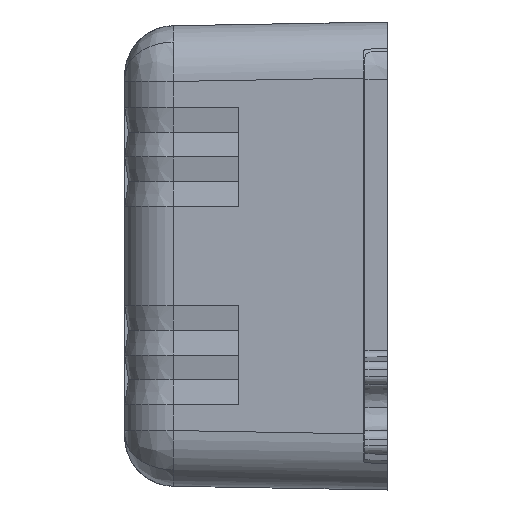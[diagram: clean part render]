
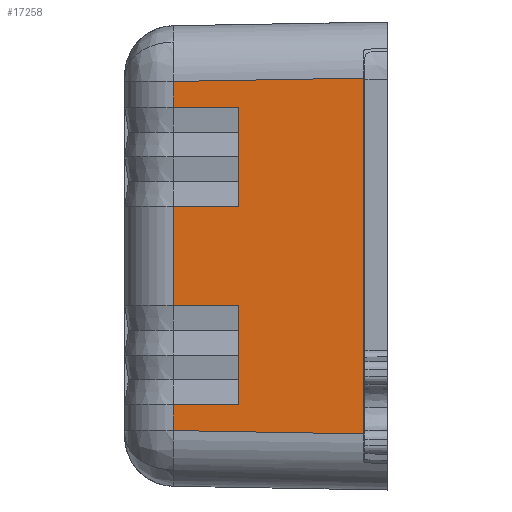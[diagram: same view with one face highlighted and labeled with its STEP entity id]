
A CAD part, left-side view. The second image highlights one B-rep face of the part: STEP entity #17258.
In plain terms, the highlighted planar face has unit normal (-1, 0.018, 0).
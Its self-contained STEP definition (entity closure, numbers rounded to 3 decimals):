
#8 = LINE ( 'NONE', #13129, #19230 ) ;
#126 = ORIENTED_EDGE ( 'NONE', *, *, #17130, .T. ) ;
#176 = CARTESIAN_POINT ( 'NONE',  ( -47.601, -1.567, -14.368 ) ) ;
#269 = VECTOR ( 'NONE', #11273, 1000. ) ;
#352 = FACE_OUTER_BOUND ( 'NONE', #4096, .T. ) ;
#602 = EDGE_CURVE ( 'NONE', #4332, #14952, #9105, .T. ) ;
#658 = CARTESIAN_POINT ( 'NONE',  ( -47.601, -1.567, 14.368 ) ) ;
#681 = PLANE ( 'NONE',  #9734 ) ;
#783 = VECTOR ( 'NONE', #10850, 1000. ) ;
#832 = VERTEX_POINT ( 'NONE', #658 ) ;
#1109 = DIRECTION ( 'NONE',  ( 0., 0., -1. ) ) ;
#1784 = CARTESIAN_POINT ( 'NONE',  ( -47.333, 13.803, -14.031 ) ) ;
#1952 = ORIENTED_EDGE ( 'NONE', *, *, #12623, .F. ) ;
#2043 = LINE ( 'NONE', #4685, #17698 ) ;
#2158 = VECTOR ( 'NONE', #10868, 1000. ) ;
#2548 = ORIENTED_EDGE ( 'NONE', *, *, #10962, .T. ) ;
#2654 = VERTEX_POINT ( 'NONE', #8523 ) ;
#2742 = ORIENTED_EDGE ( 'NONE', *, *, #13839, .T. ) ;
#3668 = VECTOR ( 'NONE', #15021, 1000. ) ;
#3721 = EDGE_CURVE ( 'NONE', #832, #14952, #19325, .T. ) ;
#3815 = LINE ( 'NONE', #10865, #11877 ) ;
#4096 = EDGE_LOOP ( 'NONE', ( #7055, #11919, #126, #17797, #7253, #4557, #14496, #14992, #1952, #2548, #11182, #2742, #16866, #16859 ) ) ;
#4332 = VERTEX_POINT ( 'NONE', #8757 ) ;
#4338 = VECTOR ( 'NONE', #6388, 1000. ) ;
#4414 = LINE ( 'NONE', #9039, #12505 ) ;
#4557 = ORIENTED_EDGE ( 'NONE', *, *, #17070, .T. ) ;
#4685 = CARTESIAN_POINT ( 'NONE',  ( -47.333, 13.803, -14.031 ) ) ;
#5082 = CARTESIAN_POINT ( 'NONE',  ( -47.425, 8.533, 8. ) ) ;
#5150 = VECTOR ( 'NONE', #18228, 1000. ) ;
#5306 = CARTESIAN_POINT ( 'NONE',  ( -47.333, 13.803, -12. ) ) ;
#5856 = DIRECTION ( 'NONE',  ( 0., 0., -1. ) ) ;
#5886 = DIRECTION ( 'NONE',  ( -0.017, -1., -0.017 ) ) ;
#6388 = DIRECTION ( 'NONE',  ( 0., 0., -1. ) ) ;
#6687 = CARTESIAN_POINT ( 'NONE',  ( -47.333, 13.803, 14.099 ) ) ;
#6787 = CARTESIAN_POINT ( 'NONE',  ( -47.425, 8.533, 4. ) ) ;
#6792 = CARTESIAN_POINT ( 'NONE',  ( -47.635, -3.467, -18.9 ) ) ;
#7055 = ORIENTED_EDGE ( 'NONE', *, *, #11671, .T. ) ;
#7253 = ORIENTED_EDGE ( 'NONE', *, *, #3721, .F. ) ;
#7311 = VERTEX_POINT ( 'NONE', #5082 ) ;
#7723 = VECTOR ( 'NONE', #5856, 1000. ) ;
#8055 = CARTESIAN_POINT ( 'NONE',  ( -47.425, 8.533, -12. ) ) ;
#8305 = DIRECTION ( 'NONE',  ( -0.017, -1., 0. ) ) ;
#8323 = EDGE_CURVE ( 'NONE', #10787, #19073, #17253, .T. ) ;
#8377 = LINE ( 'NONE', #9336, #4338 ) ;
#8523 = CARTESIAN_POINT ( 'NONE',  ( -47.425, 8.533, -8. ) ) ;
#8623 = VECTOR ( 'NONE', #5886, 1000. ) ;
#8757 = CARTESIAN_POINT ( 'NONE',  ( -47.333, 13.803, -14.099 ) ) ;
#8817 = LINE ( 'NONE', #18853, #269 ) ;
#8935 = LINE ( 'NONE', #10211, #17036 ) ;
#9039 = CARTESIAN_POINT ( 'NONE',  ( -47.624, -2.886, 14.391 ) ) ;
#9105 = LINE ( 'NONE', #19451, #8623 ) ;
#9139 = CARTESIAN_POINT ( 'NONE',  ( -47.333, 13.803, -4. ) ) ;
#9336 = CARTESIAN_POINT ( 'NONE',  ( -47.425, 8.533, -12. ) ) ;
#9576 = EDGE_CURVE ( 'NONE', #2654, #19073, #3815, .T. ) ;
#9734 = AXIS2_PLACEMENT_3D ( 'NONE', #6792, #17407, #8305 ) ;
#9745 = CARTESIAN_POINT ( 'NONE',  ( -47.425, 8.533, 12. ) ) ;
#10211 = CARTESIAN_POINT ( 'NONE',  ( -47.425, 8.533, 4. ) ) ;
#10622 = VERTEX_POINT ( 'NONE', #6787 ) ;
#10787 = VERTEX_POINT ( 'NONE', #17843 ) ;
#10850 = DIRECTION ( 'NONE',  ( -0.017, -1., 0. ) ) ;
#10865 = CARTESIAN_POINT ( 'NONE',  ( -47.425, 8.533, -4. ) ) ;
#10868 = DIRECTION ( 'NONE',  ( 0., 0., -1. ) ) ;
#10962 = EDGE_CURVE ( 'NONE', #7311, #10622, #8935, .T. ) ;
#10966 = VERTEX_POINT ( 'NONE', #17777 ) ;
#11133 = CARTESIAN_POINT ( 'NONE',  ( -47.333, 13.803, 12. ) ) ;
#11182 = ORIENTED_EDGE ( 'NONE', *, *, #13680, .F. ) ;
#11273 = DIRECTION ( 'NONE',  ( -0.017, -1., 0. ) ) ;
#11657 = EDGE_CURVE ( 'NONE', #17753, #15891, #13375, .T. ) ;
#11671 = EDGE_CURVE ( 'NONE', #2654, #12363, #8377, .T. ) ;
#11778 = DIRECTION ( 'NONE',  ( -0.017, -1., 0. ) ) ;
#11877 = VECTOR ( 'NONE', #13886, 1000. ) ;
#11919 = ORIENTED_EDGE ( 'NONE', *, *, #13487, .F. ) ;
#12018 = CARTESIAN_POINT ( 'NONE',  ( -47.425, 8.533, 12. ) ) ;
#12103 = DIRECTION ( 'NONE',  ( 0.017, 1., -0.017 ) ) ;
#12363 = VERTEX_POINT ( 'NONE', #8055 ) ;
#12505 = VECTOR ( 'NONE', #12103, 1000. ) ;
#12623 = EDGE_CURVE ( 'NONE', #7311, #15891, #15830, .T. ) ;
#13129 = CARTESIAN_POINT ( 'NONE',  ( -47.333, 13.803, -14.031 ) ) ;
#13375 = LINE ( 'NONE', #18426, #783 ) ;
#13487 = EDGE_CURVE ( 'NONE', #19364, #12363, #8817, .T. ) ;
#13680 = EDGE_CURVE ( 'NONE', #10966, #10622, #17379, .T. ) ;
#13839 = EDGE_CURVE ( 'NONE', #10966, #10787, #17814, .T. ) ;
#13886 = DIRECTION ( 'NONE',  ( 0., 0., 1. ) ) ;
#14496 = ORIENTED_EDGE ( 'NONE', *, *, #15157, .T. ) ;
#14610 = DIRECTION ( 'NONE',  ( 0., 0., -1. ) ) ;
#14952 = VERTEX_POINT ( 'NONE', #176 ) ;
#14956 = CARTESIAN_POINT ( 'NONE',  ( -47.601, -1.567, -18.9 ) ) ;
#14992 = ORIENTED_EDGE ( 'NONE', *, *, #11657, .T. ) ;
#15021 = DIRECTION ( 'NONE',  ( 0., 0., 1. ) ) ;
#15157 = EDGE_CURVE ( 'NONE', #17239, #17753, #8, .T. ) ;
#15830 = LINE ( 'NONE', #12018, #3668 ) ;
#15891 = VERTEX_POINT ( 'NONE', #9745 ) ;
#16859 = ORIENTED_EDGE ( 'NONE', *, *, #9576, .F. ) ;
#16866 = ORIENTED_EDGE ( 'NONE', *, *, #8323, .T. ) ;
#17036 = VECTOR ( 'NONE', #1109, 1000. ) ;
#17070 = EDGE_CURVE ( 'NONE', #832, #17239, #4414, .T. ) ;
#17130 = EDGE_CURVE ( 'NONE', #19364, #4332, #2043, .T. ) ;
#17239 = VERTEX_POINT ( 'NONE', #6687 ) ;
#17253 = LINE ( 'NONE', #9139, #5150 ) ;
#17258 = ADVANCED_FACE ( 'NONE', ( #352 ), #681, .T. ) ;
#17379 = LINE ( 'NONE', #19333, #19469 ) ;
#17407 = DIRECTION ( 'NONE',  ( -1., 0.017, 0. ) ) ;
#17698 = VECTOR ( 'NONE', #18333, 1000. ) ;
#17753 = VERTEX_POINT ( 'NONE', #11133 ) ;
#17777 = CARTESIAN_POINT ( 'NONE',  ( -47.333, 13.803, 4. ) ) ;
#17797 = ORIENTED_EDGE ( 'NONE', *, *, #602, .T. ) ;
#17814 = LINE ( 'NONE', #1784, #2158 ) ;
#17843 = CARTESIAN_POINT ( 'NONE',  ( -47.333, 13.803, -4. ) ) ;
#18221 = CARTESIAN_POINT ( 'NONE',  ( -47.425, 8.533, -4. ) ) ;
#18228 = DIRECTION ( 'NONE',  ( -0.017, -1., 0. ) ) ;
#18333 = DIRECTION ( 'NONE',  ( 0., 0., -1. ) ) ;
#18426 = CARTESIAN_POINT ( 'NONE',  ( -47.333, 13.803, 12. ) ) ;
#18853 = CARTESIAN_POINT ( 'NONE',  ( -47.333, 13.803, -12. ) ) ;
#19073 = VERTEX_POINT ( 'NONE', #18221 ) ;
#19230 = VECTOR ( 'NONE', #14610, 1000. ) ;
#19325 = LINE ( 'NONE', #14956, #7723 ) ;
#19333 = CARTESIAN_POINT ( 'NONE',  ( -47.333, 13.803, 4. ) ) ;
#19364 = VERTEX_POINT ( 'NONE', #5306 ) ;
#19451 = CARTESIAN_POINT ( 'NONE',  ( -47.636, -3.545, -14.402 ) ) ;
#19469 = VECTOR ( 'NONE', #11778, 1000. ) ;
